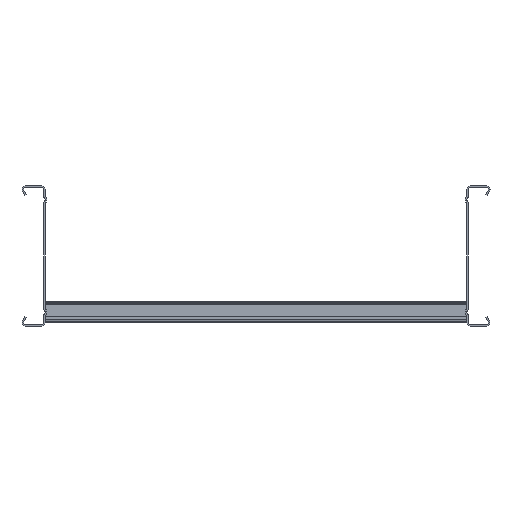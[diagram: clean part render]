
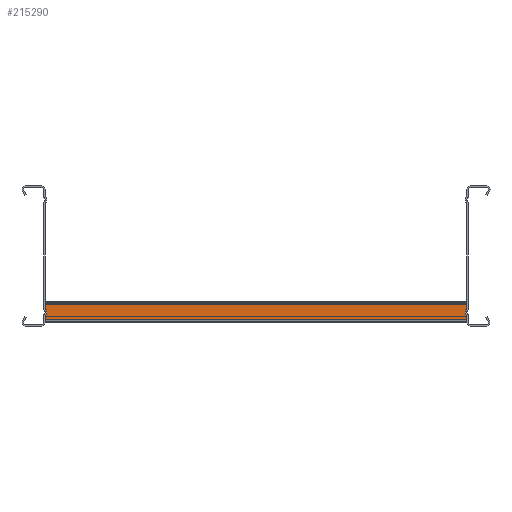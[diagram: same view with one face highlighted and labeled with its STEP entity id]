
A CAD part, left-side view. The second image highlights one B-rep face of the part: STEP entity #215290.
In plain terms, the highlighted planar face has unit normal (-1, 0, 0) as drawn and (1, 0, 0) by its records, which use the part's own axes.
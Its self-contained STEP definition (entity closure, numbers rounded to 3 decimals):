
#206190=CARTESIAN_POINT('',(39.75,881.,150.));
#206200=VERTEX_POINT('',#206190);
#206230=CARTESIAN_POINT('',(39.75,0.,150.));
#206240=DIRECTION('',(0.,-1.,0.));
#206250=VECTOR('',#206240,1.);
#206260=LINE('',#206230,#206250);
#206270=CARTESIAN_POINT('',(39.75,897.,150.));
#206280=VERTEX_POINT('',#206270);
#206290=EDGE_CURVE('',#206280,#206200,#206260,.T.);
#214990=CARTESIAN_POINT('',(39.75,900.,0.));
#215000=DIRECTION('',(1.,0.,0.));
#215010=DIRECTION('',(0.,-1.,0.));
#215020=AXIS2_PLACEMENT_3D('',#214990,#215000,#215010);
#215030=PLANE('',#215020);
#215040=ORIENTED_EDGE('',*,*,#206290,.F.);
#215050=CARTESIAN_POINT('',(39.75,881.,0.));
#215060=DIRECTION('',(0.,0.,1.));
#215070=VECTOR('',#215060,1.);
#215080=LINE('',#215050,#215070);
#215090=CARTESIAN_POINT('',(39.75,881.,600.));
#215100=VERTEX_POINT('',#215090);
#215110=EDGE_CURVE('',#206200,#215100,#215080,.T.);
#215120=ORIENTED_EDGE('',*,*,#215110,.F.);
#215130=CARTESIAN_POINT('',(39.75,0.,600.));
#215140=DIRECTION('',(0.,1.,0.));
#215150=VECTOR('',#215140,1.);
#215160=LINE('',#215130,#215150);
#215170=CARTESIAN_POINT('',(39.75,897.,600.));
#215180=VERTEX_POINT('',#215170);
#215190=EDGE_CURVE('',#215100,#215180,#215160,.T.);
#215200=ORIENTED_EDGE('',*,*,#215190,.F.);
#215210=CARTESIAN_POINT('',(39.75,897.,0.));
#215220=DIRECTION('',(0.,0.,1.));
#215230=VECTOR('',#215220,1.);
#215240=LINE('',#215210,#215230);
#215250=EDGE_CURVE('',#206280,#215180,#215240,.T.);
#215260=ORIENTED_EDGE('',*,*,#215250,.T.);
#215270=EDGE_LOOP('',(#215260,#215200,#215120,#215040));
#215280=FACE_OUTER_BOUND('',#215270,.T.);
#215290=ADVANCED_FACE('',(#215280),#215030,.T.);
